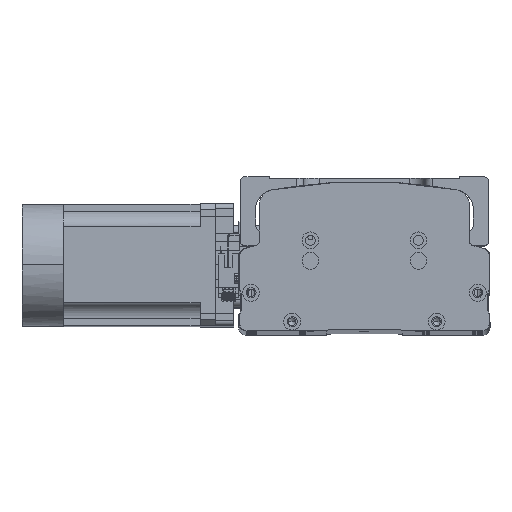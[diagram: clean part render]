
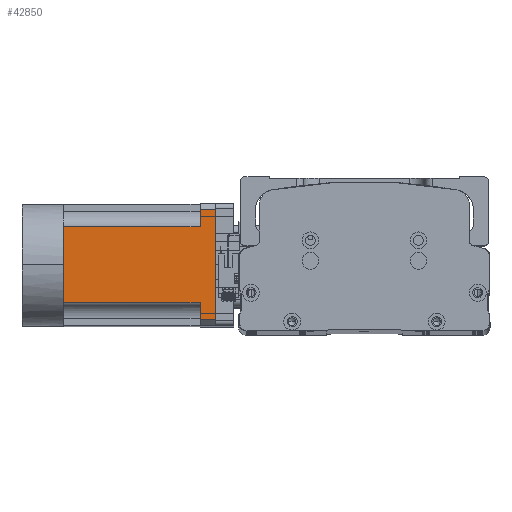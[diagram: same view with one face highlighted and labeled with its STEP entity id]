
A CAD part, top view. The second image highlights one B-rep face of the part: STEP entity #42850.
In plain terms, the highlighted planar face has unit normal (0, 0.011, 1) as drawn and (0, 0, -1) by its records, which use the part's own axes.
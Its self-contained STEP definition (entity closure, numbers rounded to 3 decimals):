
#117 = VERTEX_POINT ( 'NONE', #38401 ) ;
#1139 = EDGE_CURVE ( 'NONE', #48426, #18239, #5011, .T. ) ;
#1546 = EDGE_CURVE ( 'NONE', #15786, #28712, #25363, .T. ) ;
#2662 = ORIENTED_EDGE ( 'NONE', *, *, #15955, .T. ) ;
#3652 = CARTESIAN_POINT ( 'NONE',  ( 25., -27., -40. ) ) ;
#3885 = DIRECTION ( 'NONE',  ( -1., 0., 0. ) ) ;
#4530 = VECTOR ( 'NONE', #50641, 1000. ) ;
#4843 = CARTESIAN_POINT ( 'NONE',  ( 0., 0., -40. ) ) ;
#5011 = LINE ( 'NONE', #28322, #36148 ) ;
#5085 = ORIENTED_EDGE ( 'NONE', *, *, #1546, .T. ) ;
#5640 = ORIENTED_EDGE ( 'NONE', *, *, #5851, .T. ) ;
#5851 = EDGE_CURVE ( 'NONE', #17899, #48426, #30723, .T. ) ;
#6414 = ORIENTED_EDGE ( 'NONE', *, *, #41781, .T. ) ;
#7584 = DIRECTION ( 'NONE',  ( 0., -1., 0. ) ) ;
#7879 = LINE ( 'NONE', #43979, #19950 ) ;
#9861 = LINE ( 'NONE', #49454, #51835 ) ;
#10464 = VERTEX_POINT ( 'NONE', #25407 ) ;
#11505 = DIRECTION ( 'NONE',  ( -1., 0., 0. ) ) ;
#13109 = VECTOR ( 'NONE', #3885, 1000. ) ;
#13286 = VECTOR ( 'NONE', #29116, 1000. ) ;
#13964 = ORIENTED_EDGE ( 'NONE', *, *, #27976, .T. ) ;
#15786 = VERTEX_POINT ( 'NONE', #22711 ) ;
#15955 = EDGE_CURVE ( 'NONE', #28712, #17899, #7879, .T. ) ;
#16871 = CARTESIAN_POINT ( 'NONE',  ( 36., -27., -40. ) ) ;
#16916 = DIRECTION ( 'NONE',  ( 0., 0., -1. ) ) ;
#17899 = VERTEX_POINT ( 'NONE', #18048 ) ;
#18048 = CARTESIAN_POINT ( 'NONE',  ( 25., 90., -40. ) ) ;
#18239 = VERTEX_POINT ( 'NONE', #4843 ) ;
#18957 = ORIENTED_EDGE ( 'NONE', *, *, #1139, .T. ) ;
#19220 = VERTEX_POINT ( 'NONE', #26797 ) ;
#19483 = EDGE_LOOP ( 'NONE', ( #45788, #5085, #2662, #5640, #18957, #6414, #13964, #41068, #20541 ) ) ;
#19950 = VECTOR ( 'NONE', #11505, 1000. ) ;
#20541 = ORIENTED_EDGE ( 'NONE', *, *, #26808, .T. ) ;
#20821 = DIRECTION ( 'NONE',  ( 0., 1., 0. ) ) ;
#21776 = CARTESIAN_POINT ( 'NONE',  ( -40., 90., -40. ) ) ;
#22711 = CARTESIAN_POINT ( 'NONE',  ( 36., 100., -40. ) ) ;
#23584 = EDGE_CURVE ( 'NONE', #15786, #10464, #45491, .T. ) ;
#24096 = LINE ( 'NONE', #21776, #44406 ) ;
#25363 = LINE ( 'NONE', #16871, #13286 ) ;
#25407 = CARTESIAN_POINT ( 'NONE',  ( -36., 100., -40. ) ) ;
#25577 = VERTEX_POINT ( 'NONE', #42736 ) ;
#26010 = DIRECTION ( 'NONE',  ( -1., 0., 0. ) ) ;
#26051 = EDGE_CURVE ( 'NONE', #117, #25577, #24096, .T. ) ;
#26797 = CARTESIAN_POINT ( 'NONE',  ( -25., 0., -40. ) ) ;
#26808 = EDGE_CURVE ( 'NONE', #25577, #10464, #39244, .T. ) ;
#27976 = EDGE_CURVE ( 'NONE', #19220, #117, #9861, .T. ) ;
#28322 = CARTESIAN_POINT ( 'NONE',  ( -40., 0., -40. ) ) ;
#28712 = VERTEX_POINT ( 'NONE', #50318 ) ;
#28975 = CARTESIAN_POINT ( 'NONE',  ( -40., -27., -40. ) ) ;
#29116 = DIRECTION ( 'NONE',  ( 0., -1., 0. ) ) ;
#30723 = LINE ( 'NONE', #3652, #52385 ) ;
#32405 = DIRECTION ( 'NONE',  ( -1., 0., 0. ) ) ;
#32490 = CARTESIAN_POINT ( 'NONE',  ( -36., -27., -40. ) ) ;
#33148 = AXIS2_PLACEMENT_3D ( 'NONE', #28975, #16916, #45310 ) ;
#36148 = VECTOR ( 'NONE', #32405, 1000. ) ;
#38222 = LINE ( 'NONE', #38494, #4530 ) ;
#38401 = CARTESIAN_POINT ( 'NONE',  ( -25., 90., -40. ) ) ;
#38494 = CARTESIAN_POINT ( 'NONE',  ( -40., 0., -40. ) ) ;
#39244 = LINE ( 'NONE', #32490, #50110 ) ;
#40083 = CARTESIAN_POINT ( 'NONE',  ( -40., 100., -40. ) ) ;
#40629 = DIRECTION ( 'NONE',  ( 0., 1., 0. ) ) ;
#41068 = ORIENTED_EDGE ( 'NONE', *, *, #26051, .T. ) ;
#41215 = PLANE ( 'NONE',  #33148 ) ;
#41781 = EDGE_CURVE ( 'NONE', #18239, #19220, #38222, .T. ) ;
#42736 = CARTESIAN_POINT ( 'NONE',  ( -36., 90., -40. ) ) ;
#42850 = ADVANCED_FACE ( 'NONE', ( #52204 ), #41215, .T. ) ;
#43979 = CARTESIAN_POINT ( 'NONE',  ( -40., 90., -40. ) ) ;
#44406 = VECTOR ( 'NONE', #26010, 1000. ) ;
#45310 = DIRECTION ( 'NONE',  ( -1., 0., 0. ) ) ;
#45491 = LINE ( 'NONE', #40083, #13109 ) ;
#45788 = ORIENTED_EDGE ( 'NONE', *, *, #23584, .F. ) ;
#48426 = VERTEX_POINT ( 'NONE', #52387 ) ;
#49454 = CARTESIAN_POINT ( 'NONE',  ( -25., -27., -40. ) ) ;
#50110 = VECTOR ( 'NONE', #40629, 1000. ) ;
#50318 = CARTESIAN_POINT ( 'NONE',  ( 36., 90., -40. ) ) ;
#50641 = DIRECTION ( 'NONE',  ( -1., 0., 0. ) ) ;
#51835 = VECTOR ( 'NONE', #20821, 1000. ) ;
#52204 = FACE_OUTER_BOUND ( 'NONE', #19483, .T. ) ;
#52385 = VECTOR ( 'NONE', #7584, 1000. ) ;
#52387 = CARTESIAN_POINT ( 'NONE',  ( 25., 0., -40. ) ) ;
